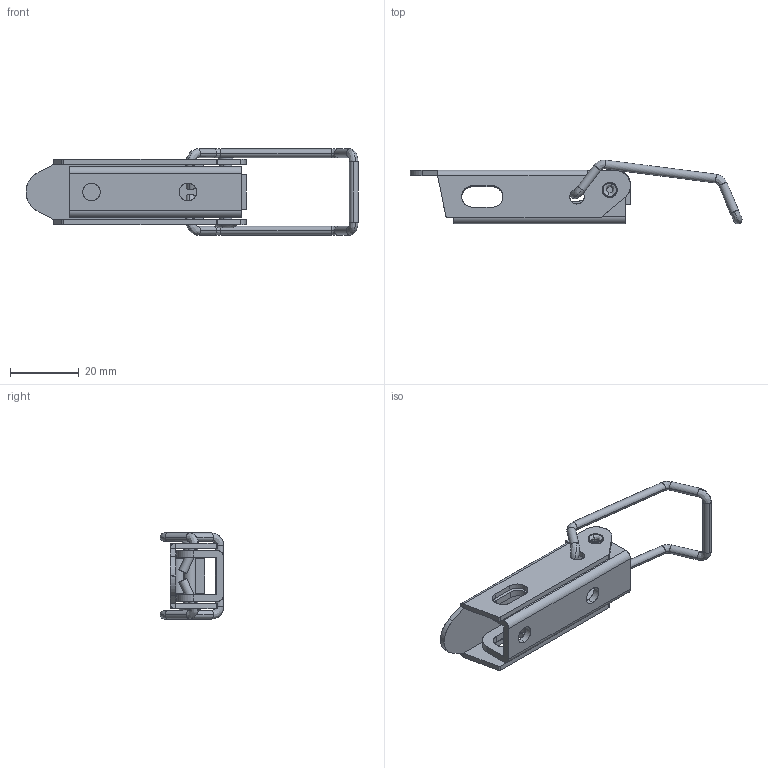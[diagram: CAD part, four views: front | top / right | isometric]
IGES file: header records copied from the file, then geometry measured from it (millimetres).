
Start section: SolidWorks IGES FILE using analytic representation for surfaces
Global section: file name: C:\Documents and Settings\brechard\Bureau\GE 577\GE 577.IGS; native system: SolidWorks 2001Plus by SolidWorks Corporation; preprocessor: Version 5.3; author: brechard; date: 050126.100909; units: millimetre
Bounding box: 96.44 x 18.52 x 25 mm (x, y, z)
Surface area: 9949.9 mm2 (no closed solid volume)
Topology: 0 solids, 0 shells, 156 faces, 2182 edges, 2182 vertices
Faces by surface type: bspline 82, revolution 74
